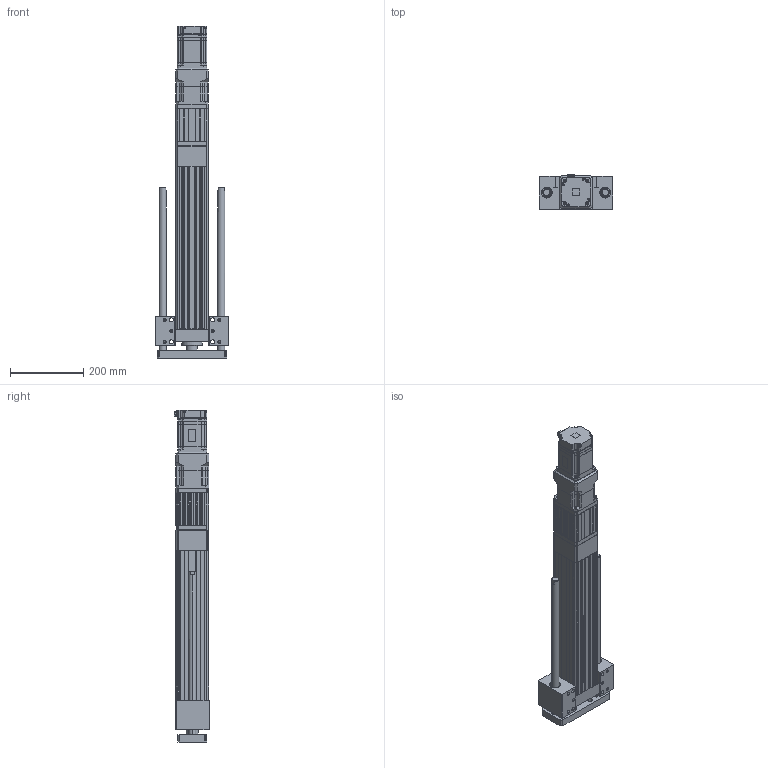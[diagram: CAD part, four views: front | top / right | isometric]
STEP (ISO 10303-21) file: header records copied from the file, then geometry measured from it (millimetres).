
FILE_DESCRIPTION (( 'STEP AP203' ), '1' );
FILE_NAME ('ANS090H-HS300-05(10)(25)-W75G05.STEP', '2019-03-18T03:26:33', ( 'user' ), ( '' ), 'SwSTEP 2.0', 'SolidWorks 2013', '' );
FILE_SCHEMA (( 'CONFIG_CONTROL_DESIGN' ));
Length unit declared in the file: millimetre
Products named in the file (5): ANS090H HS300 VER2; ANS090 ROD ST300-H; SGMJV_08A_A21; AB090-005-S1-P2[YASKAWA SGMJV08A]; ANS090H-HS300-05(10)(25)-W75G05
Assembly tree (4 placements, depth 2):
  ANS090H-HS300-05(10)(25)-W75G05
    ANS090H HS300 VER2
    ANS090 ROD ST300-H
    SGMJV_08A_A21
    AB090-005-S1-P2[YASKAWA SGMJV08A]
Bounding box: 200 x 95.8 x 908.1 mm (x, y, z)
Volume: 4779753.1 mm3; surface area: 846930.3 mm2
Topology: 3 solids, 10 shells, 1749 faces, 4692 edges, 3042 vertices
Faces by surface type: plane 1030, cylinder 559, cone 148, bspline 12
Entity records: 55250 total; most frequent: CARTESIAN_POINT 10492, ORIENTED_EDGE 9248, DIRECTION 9165, EDGE_CURVE 4668, VECTOR 3271, LINE 3271, VERTEX_POINT 3042, AXIS2_PLACEMENT_3D 2947
